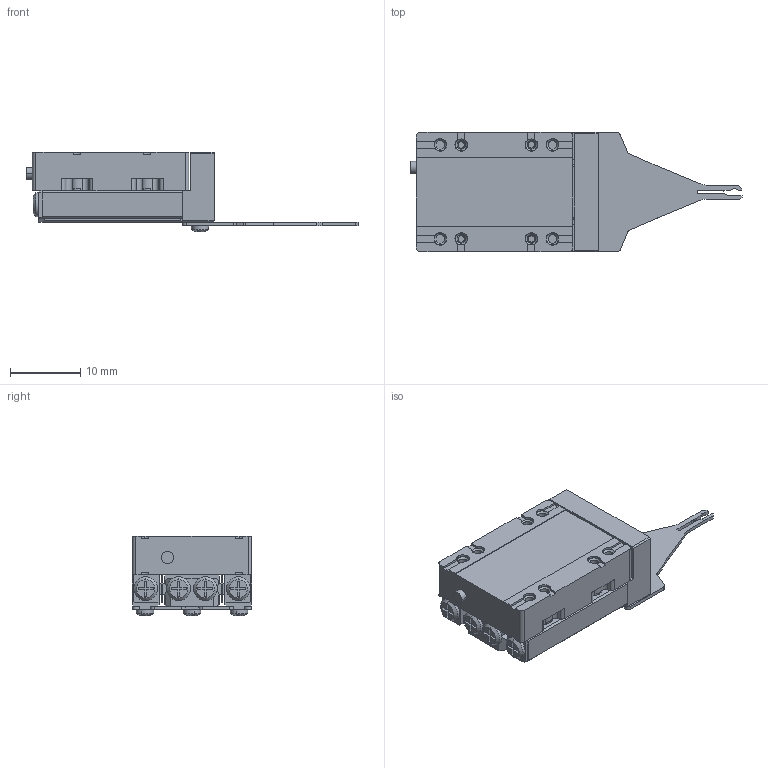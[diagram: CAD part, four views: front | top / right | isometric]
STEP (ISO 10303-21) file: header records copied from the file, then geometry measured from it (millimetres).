
FILE_DESCRIPTION (( 'STEP AP214' ), '1' );
FILE_NAME ('YGPU-P04.STEP', '2026-06-11T03:52:52', ( '' ), ( '' ), 'SwSTEP 2.0', 'SolidWorks 2022', '' );
FILE_SCHEMA (( 'AUTOMOTIVE_DESIGN' ));
Length unit declared in the file: millimetre
Products named in the file (1): YGPU-P04
Bounding box: 47.3 x 17 x 11.38 mm (x, y, z)
Volume: 3866.4 mm3; surface area: 4824 mm2
Topology: 26 solids, 26 shells, 889 faces, 2162 edges, 1343 vertices
Faces by surface type: plane 484, cylinder 217, cone 144, torus 22, sphere 22
Entity records: 36108 total; most frequent: DIRECTION 4724, CARTESIAN_POINT 4571, ORIENTED_EDGE 4308, EDGE_CURVE 2154, AXIS2_PLACEMENT_3D 1704, VERTEX_POINT 1339, LINE 1316, VECTOR 1316
